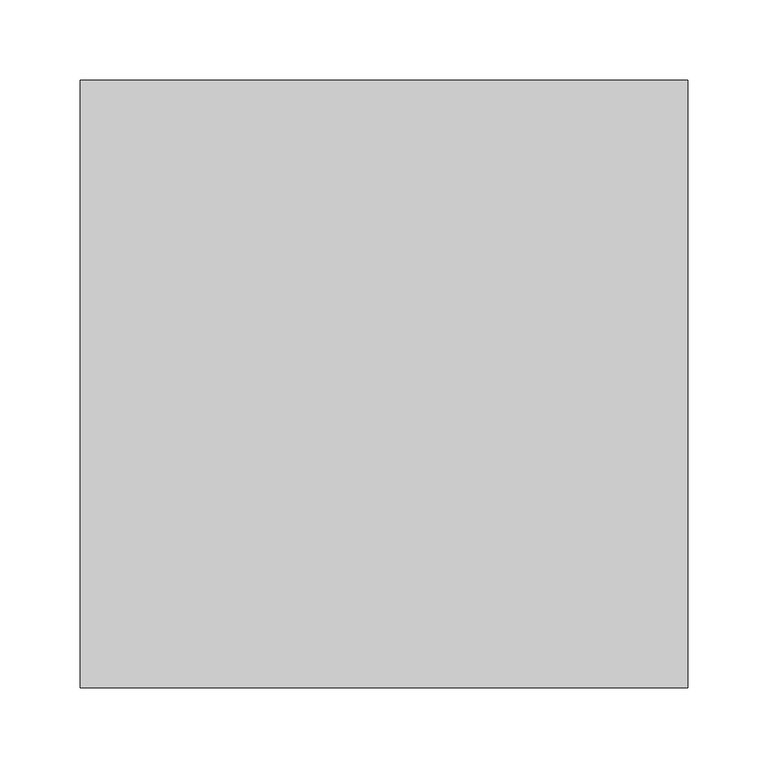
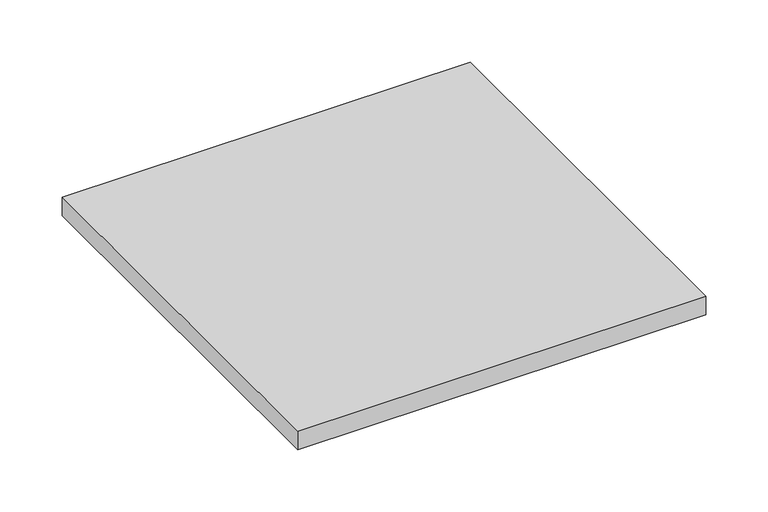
"""IFC4 building model written with IfcOpenShell, lengths in millimetres: proxy geometry, TECHNO_Решетка_KVU : Решетка рулонная деревянная / Светлое дерево."""

import ifcopenshell
import ifcopenshell.guid

model = None  # the IFC model being written
_history = None  # IfcOwnerHistory: only IFC2X3 demands one
_inside = {}  # id of a spatial element -> (the spatial element, [elements in it])
_under = {}  # id of a project, library or spatial element -> (it, [spatial elements below it])
_declared = {}  # id of a project -> (the project, [libraries it declares])
_typed = {}  # id of a type object -> (the type object, [elements of that type])
_made_of = {}  # id of a material, layer set ... -> (it, [elements and type objects made of it])


def new_model(schema):
    """Start an empty IFC model of exactly this schema.

    Asked for "IFC4X3", IfcOpenShell would pick the latest addendum, in which some entities
    have other attributes; the version numbers below select the first issue.
    IFC2X3 requires an IfcOwnerHistory on every rooted entity: one is made here for all.
    """
    global model, _history
    if schema == "IFC4X3":
        model = ifcopenshell.file(schema_version=(4, 3, 0, 0))
    else:
        model = ifcopenshell.file(schema=schema)
    _inside.clear()
    _under.clear()
    _declared.clear()
    _typed.clear()
    _made_of.clear()
    _history = None
    if model.schema == "IFC2X3":
        org = make("IfcOrganization", Name="unknown")
        user = make(
            "IfcPersonAndOrganization",
            ThePerson=make("IfcPerson", FamilyName="unknown"),
            TheOrganization=org,
        )
        app = make(
            "IfcApplication",
            ApplicationDeveloper=org,
            Version="unknown",
            ApplicationFullName="unknown",
            ApplicationIdentifier="unknown",
        )
        _history = make(
            "IfcOwnerHistory",
            OwningUser=user,
            OwningApplication=app,
            ChangeAction="ADDED",
            CreationDate=0,
        )
    return model


def make(cls, **values):
    """One entity of the class cls with the attributes given. An attribute that is None is left unset."""
    return model.create_entity(
        cls, **{name: value for name, value in values.items() if value is not None}
    )


def rooted(cls, **values):
    """An entity with a GlobalId (a new one), such as an element, a storey or a relation."""
    return make(cls, GlobalId=ifcopenshell.guid.new(), OwnerHistory=_history, **values)


def si_unit(unit_type, name, prefix=None):
    """IfcSIUnit, for example si_unit("LENGTHUNIT", "METRE", prefix="MILLI")."""
    return make("IfcSIUnit", UnitType=unit_type, Prefix=prefix, Name=name)


def assignment(units):
    """IfcUnitAssignment: the units of a project."""
    return None if units is None else make("IfcUnitAssignment", Units=units)


def point(xyz):
    """IfcCartesianPoint."""
    return None if xyz is None else make("IfcCartesianPoint", Coordinates=xyz)


def direction(xyz):
    """IfcDirection."""
    return None if xyz is None else make("IfcDirection", DirectionRatios=xyz)


def frame(location, z_axis=None, x_axis=None):
    """IfcAxis2Placement3D, a coordinate frame: its origin and axes. An axis left out is left unset."""
    return make(
        "IfcAxis2Placement3D",
        Location=point(location),
        Axis=direction(z_axis),
        RefDirection=direction(x_axis),
    )


def origin():
    """The frame at (0, 0, 0) with its axes left unset."""
    return frame((0.0, 0.0, 0.0))


def place(relative_to, where):
    """IfcLocalPlacement: puts the frame where relative to a parent placement (None: the world)."""
    return make(
        "IfcLocalPlacement", PlacementRelTo=relative_to, RelativePlacement=where
    )


def context(
    kind, dimensions, precision=None, world=None, true_north=None, identifier=None
):
    """IfcGeometricRepresentationContext, for example the 3D "Model" context."""
    return make(
        "IfcGeometricRepresentationContext",
        ContextIdentifier=identifier,
        ContextType=kind,
        CoordinateSpaceDimension=dimensions,
        Precision=precision,
        WorldCoordinateSystem=world,
        TrueNorth=true_north,
    )


def project(units=None, contexts=None):
    """IfcProject with its units and contexts."""
    return rooted(
        "IfcProject",
        Name="project",
        RepresentationContexts=contexts,
        UnitsInContext=assignment(units),
    )


def spatial(cls, under=None, at=None, **own):
    """A site, building, storey or space (cls), placed at a placement, below another one or the project."""
    s = rooted(cls, ObjectPlacement=at, **own)
    if under is not None:
        _under.setdefault(under.id(), (under, []))[1].append(s)
    return s


def polyline(points):
    """IfcPolyline through the points."""
    return make("IfcPolyline", Points=[point(p) for p in points])


def outline(outer, holes=None, kind="AREA"):
    """IfcArbitraryClosedProfileDef: a profile drawn as a closed curve; with holes, ...WithVoids."""
    if holes is None:
        return make("IfcArbitraryClosedProfileDef", ProfileType=kind, OuterCurve=outer)
    return make(
        "IfcArbitraryProfileDefWithVoids",
        ProfileType=kind,
        OuterCurve=outer,
        InnerCurves=holes,
    )


def extrude(swept, where, along, depth):
    """IfcExtrudedAreaSolid: the profile swept, set in the frame where, extruded along a direction by depth."""
    return make(
        "IfcExtrudedAreaSolid",
        SweptArea=swept,
        Position=where,
        ExtrudedDirection=direction(along),
        Depth=depth,
    )


def shape(context_of_items, identifier, shape_type, items):
    """IfcShapeRepresentation: the items that make up one representation, for example the "Body"."""
    return make(
        "IfcShapeRepresentation",
        ContextOfItems=context_of_items,
        RepresentationIdentifier=identifier,
        RepresentationType=shape_type,
        Items=items,
    )


def source(mapping_origin, context_of_items, identifier, shape_type, items):
    """IfcRepresentationMap: a shape defined once, which mapped items show again and again."""
    return make(
        "IfcRepresentationMap",
        MappingOrigin=mapping_origin,
        MappedRepresentation=shape(context_of_items, identifier, shape_type, items),
    )


def transform(
    local_origin,
    x_axis=None,
    y_axis=None,
    z_axis=None,
    scale=None,
    scale2=None,
    scale3=None,
    uniform=True,
):
    """IfcCartesianTransformationOperator3D, or its non-uniform kind. x_axis, y_axis, z_axis: its Axis1, 2, 3."""
    if uniform:
        return make(
            "IfcCartesianTransformationOperator3D",
            Axis1=direction(x_axis),
            Axis2=direction(y_axis),
            LocalOrigin=point(local_origin),
            Scale=scale,
            Axis3=direction(z_axis),
        )
    return make(
        "IfcCartesianTransformationOperator3DnonUniform",
        Axis1=direction(x_axis),
        Axis2=direction(y_axis),
        LocalOrigin=point(local_origin),
        Scale=scale,
        Axis3=direction(z_axis),
        Scale2=scale2,
        Scale3=scale3,
    )


def mapped(mapping_source, mapping_target):
    """IfcMappedItem: shows the shape of a source again, moved by a transform."""
    return make(
        "IfcMappedItem", MappingSource=mapping_source, MappingTarget=mapping_target
    )


def made_of(thing, what):
    """Note that an element or type object is made of a material, layer set ...; save() writes the relation."""
    if what is not None:
        _made_of.setdefault(what.id(), (what, []))[1].append(thing)
    return thing


def element(
    cls,
    number,
    at=None,
    inside=None,
    cuts=None,
    type_object=None,
    material=None,
    context=None,
    identifier="Body",
    shape_type=None,
    held_by="IfcProductDefinitionShape",
    body=None,
    shapes=None,
    **own,
):
    """One element of the class cls, such as IfcWall. Its Tag is "e" and its number.

    at: its placement. inside: the storey or other place that contains it. cuts: it is an
    opening in that element (IfcRelVoidsElement). A single representation is given by context,
    identifier, shape_type and body (its items); several are given by shapes. held_by: the class
    of the entity that holds the representations. save() writes the other relations.
    """
    e = rooted(cls, Tag="e%d" % number, ObjectPlacement=at, **own)
    if body is not None:
        shapes = [shape(context, identifier, shape_type, body)]
    if shapes is not None:
        e.Representation = make(held_by, Representations=shapes)
    if inside is not None:
        _inside.setdefault(inside.id(), (inside, []))[1].append(e)
    if cuts is not None:
        rooted(
            "IfcRelVoidsElement", RelatingBuildingElement=cuts, RelatedOpeningElement=e
        )
    if type_object is not None:
        _typed.setdefault(type_object.id(), (type_object, []))[1].append(e)
    return made_of(e, material)


def aggregate(whole, parts):
    """IfcRelAggregates: a whole, such as a stair, and the parts it consists of."""
    return rooted("IfcRelAggregates", RelatingObject=whole, RelatedObjects=parts)


def save(model, path):
    """Write the relations noted so far, then the file.

    IfcRelAggregates (storeys below a building ...), IfcRelContainedInSpatialStructure (elements
    in a storey), IfcRelDefinesByType, IfcRelAssociatesMaterial and IfcRelDeclares: one each for
    every whole, place, type object, material and project.
    """
    for whole, parts in _under.values():
        aggregate(whole, parts)
    for where, things in _inside.values():
        rooted(
            "IfcRelContainedInSpatialStructure",
            RelatedElements=things,
            RelatingStructure=where,
        )
    for kind, things in _typed.values():
        rooted("IfcRelDefinesByType", RelatedObjects=things, RelatingType=kind)
    for what, things in _made_of.values():
        rooted("IfcRelAssociatesMaterial", RelatedObjects=things, RelatingMaterial=what)
    for by, libraries in _declared.values():
        rooted("IfcRelDeclares", RelatingContext=by, RelatedDefinitions=libraries)
    model.write(path)


def mechanical_equipment_aafe2edb(model_context):
    return source(origin(), model_context, "Body", "SweptSolid", [
        extrude(outline(polyline([(188.8, 188.8), (188.8, -190.0), (-190.0, -190.0), (-190.0, 188.8), (188.8, 188.8)])), frame((0.0, 0.0, -18.1), z_axis=(0.0, 0.0, 1.0), x_axis=(1.0, 0.0, 0.0)), (0.0, 0.0, 1.0), 18.1),
    ])


if __name__ == "__main__":
    model = new_model("IFC4")
    model_context = context("Model", 3, world=origin())
    ifc_project = project(units=[si_unit("LENGTHUNIT", "METRE", prefix="MILLI")], contexts=[model_context])
    site = spatial("IfcSite", under=ifc_project)
    building = spatial("IfcBuilding", under=site)
    placement = place(None, origin())
    mechanical_equipment_shape = mechanical_equipment_aafe2edb(model_context)
    element("IfcBuildingElementProxy", 1, Name="TECHNO_Решетка_KVU : Решетка рулонная деревянная / Светлое дерево", ObjectType="TECHNO_Решетка_KVU : Решетка рулонная деревянная / Светлое дерево", at=placement, inside=building, context=model_context, shape_type="MappedRepresentation", body=[
        mapped(mechanical_equipment_shape, transform((0.0, 0.0, 0.0), x_axis=(1.0, 0.0, 0.0), y_axis=(0.0, 1.0, 0.0), z_axis=(0.0, 0.0, 1.0))),
    ])
    save(model, "model.ifc")
